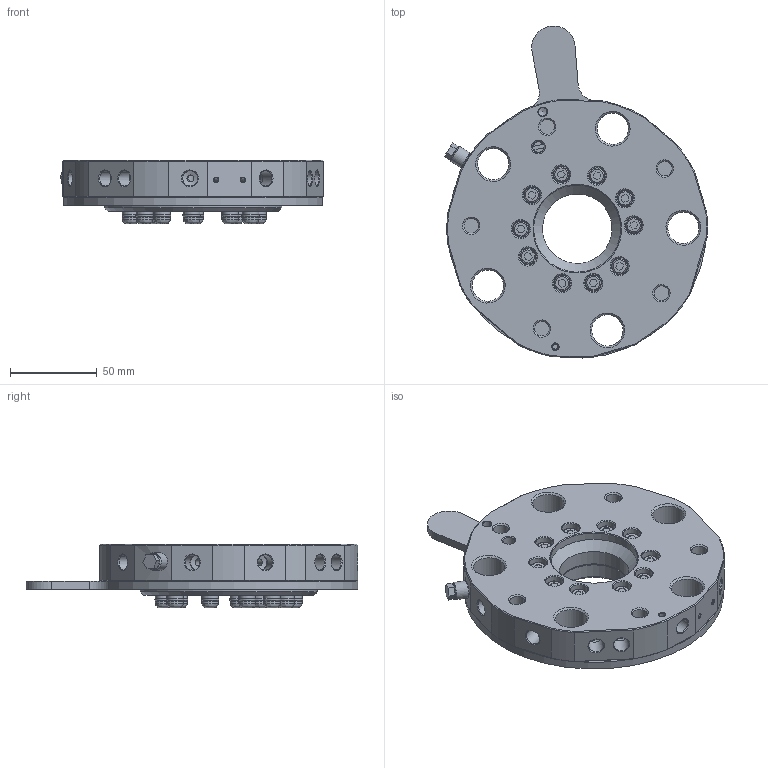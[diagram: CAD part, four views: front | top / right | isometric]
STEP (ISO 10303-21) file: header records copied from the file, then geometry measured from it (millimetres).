
FILE_DESCRIPTION(('STEP AP214'),'1');
FILE_NAME('CA.01.01.013M.stp','2018-07-10T09:54:59',(' '),(' '),'Spatial InterOp 3D',' ',' ');
FILE_SCHEMA(('AUTOMOTIVE_DESIGN { 1 0 10303 214 1 1 1 1 }'));
Length unit declared in the file: millimetre
Products named in the file (1): CA.01.01.013
Bounding box: 151.45 x 190.92 x 36.65 mm (x, y, z)
Surface area: 106427.3 mm2 (no closed solid volume)
Topology: 0 solids, 325 shells, 823 faces, 2455 edges, 1956 vertices
Faces by surface type: plane 433, cylinder 216, cone 139, torus 22, bspline 12, sphere 1
Full cylindrical faces by diameter (mm): 2.5 x2, 3 x12, 3.8 x1, 4 x13, 4.02 x1, 4.2 x11, 4.8 x1, 5 x1, 5.05 x1, 6 x24, 6.5 x1, 6.8 x1, 7.35 x12, 8.5 x15, 8.8 x24, 9.57 x24, 9.6 x3, 10 x11, 13.4 x5, 15 x5, 18.05 x5, 40 x2, 50.05 x1, 102 x1
Entity records: 33573 total; most frequent: CARTESIAN_POINT 6608, DIRECTION 4641, ORIENTED_EDGE 2846, EDGE_CURVE 2015, AXIS2_PLACEMENT_3D 1916, VERTEX_POINT 1841, FACE_BOUND 1322, EDGE_LOOP 1309
